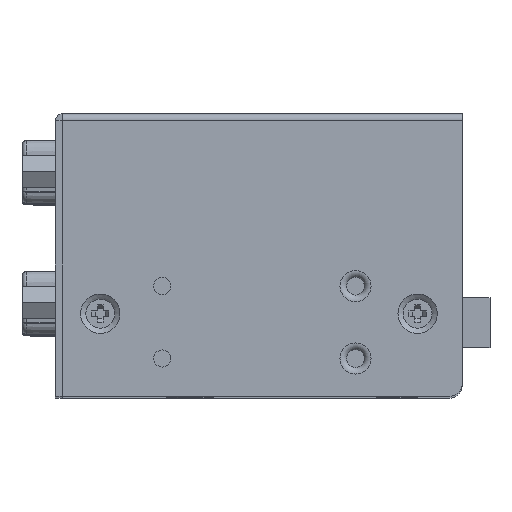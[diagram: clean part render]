
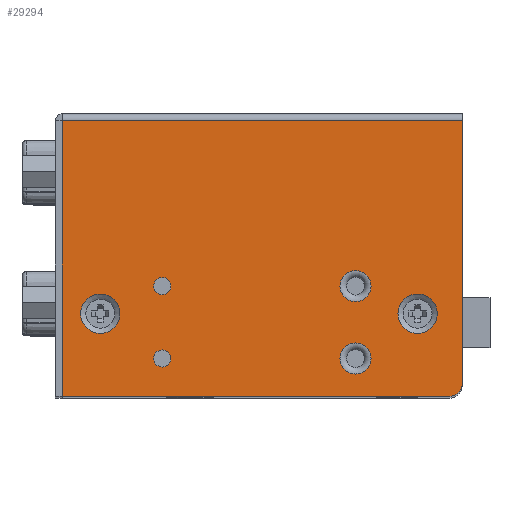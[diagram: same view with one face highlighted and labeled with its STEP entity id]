
A CAD part, top view. The second image highlights one B-rep face of the part: STEP entity #29294.
In plain terms, the highlighted planar face has unit normal (0, 0, 1).
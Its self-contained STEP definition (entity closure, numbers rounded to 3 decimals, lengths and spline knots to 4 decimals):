
#808=FACE_BOUND('',#6018,.T.);
#809=FACE_BOUND('',#6019,.T.);
#810=FACE_BOUND('',#6020,.T.);
#811=FACE_BOUND('',#6021,.T.);
#812=FACE_BOUND('',#6022,.T.);
#813=FACE_BOUND('',#6023,.T.);
#2252=CIRCLE('',#31819,0.0886);
#2254=CIRCLE('',#31822,0.0886);
#2260=CIRCLE('',#31831,0.0492);
#2261=CIRCLE('',#31833,0.1122);
#2262=CIRCLE('',#31835,0.1122);
#2263=CIRCLE('',#31837,0.0492);
#2405=CIRCLE('',#32131,0.0787);
#3998=FACE_OUTER_BOUND('',#6017,.T.);
#6017=EDGE_LOOP('',(#24495,#24496,#24497,#24498,#24499));
#6018=EDGE_LOOP('',(#24500));
#6019=EDGE_LOOP('',(#24501));
#6020=EDGE_LOOP('',(#24502));
#6021=EDGE_LOOP('',(#24503));
#6022=EDGE_LOOP('',(#24504));
#6023=EDGE_LOOP('',(#24505));
#8476=LINE('',#50761,#10975);
#8494=LINE('',#50799,#10993);
#8497=LINE('',#50804,#10996);
#8501=LINE('',#50816,#11000);
#10975=VECTOR('',#39301,39.3701);
#10993=VECTOR('',#39349,39.3701);
#10996=VECTOR('',#39354,39.3701);
#11000=VECTOR('',#39374,39.3701);
#13456=VERTEX_POINT('',#49882);
#13457=VERTEX_POINT('',#49886);
#13460=VERTEX_POINT('',#49898);
#13461=VERTEX_POINT('',#49902);
#13462=VERTEX_POINT('',#49906);
#13463=VERTEX_POINT('',#49910);
#13570=VERTEX_POINT('',#50183);
#13571=VERTEX_POINT('',#50185);
#13748=VERTEX_POINT('',#50758);
#13749=VERTEX_POINT('',#50760);
#13755=VERTEX_POINT('',#50802);
#17052=EDGE_CURVE('',#13456,#13456,#2252,.T.);
#17054=EDGE_CURVE('',#13457,#13457,#2254,.T.);
#17060=EDGE_CURVE('',#13460,#13460,#2260,.T.);
#17063=EDGE_CURVE('',#13461,#13461,#2261,.T.);
#17065=EDGE_CURVE('',#13462,#13462,#2262,.T.);
#17066=EDGE_CURVE('',#13463,#13463,#2263,.T.);
#17491=EDGE_CURVE('',#13749,#13748,#8476,.T.);
#17513=EDGE_CURVE('',#13570,#13571,#8494,.T.);
#17516=EDGE_CURVE('',#13571,#13755,#8497,.T.);
#17517=EDGE_CURVE('',#13755,#13749,#2405,.T.);
#17523=EDGE_CURVE('',#13748,#13570,#8501,.T.);
#24495=ORIENTED_EDGE('',*,*,#17523,.T.);
#24496=ORIENTED_EDGE('',*,*,#17513,.T.);
#24497=ORIENTED_EDGE('',*,*,#17516,.T.);
#24498=ORIENTED_EDGE('',*,*,#17517,.T.);
#24499=ORIENTED_EDGE('',*,*,#17491,.T.);
#24500=ORIENTED_EDGE('',*,*,#17054,.F.);
#24501=ORIENTED_EDGE('',*,*,#17052,.F.);
#24502=ORIENTED_EDGE('',*,*,#17065,.F.);
#24503=ORIENTED_EDGE('',*,*,#17063,.F.);
#24504=ORIENTED_EDGE('',*,*,#17060,.F.);
#24505=ORIENTED_EDGE('',*,*,#17066,.F.);
#27853=PLANE('',#32139);
#29294=ADVANCED_FACE('',(#3998,#808,#809,#810,#811,#812,#813),#27853,.F.);
#31819=AXIS2_PLACEMENT_3D('',#49883,#38421,#38422);
#31822=AXIS2_PLACEMENT_3D('',#49887,#38427,#38428);
#31831=AXIS2_PLACEMENT_3D('',#49899,#38445,#38446);
#31833=AXIS2_PLACEMENT_3D('',#49904,#38451,#38452);
#31835=AXIS2_PLACEMENT_3D('',#49908,#38456,#38457);
#31837=AXIS2_PLACEMENT_3D('',#49911,#38460,#38461);
#32131=AXIS2_PLACEMENT_3D('',#50806,#39357,#39358);
#32139=AXIS2_PLACEMENT_3D('',#50818,#39377,#39378);
#38421=DIRECTION('center_axis',(0.,0.,
1.));
#38422=DIRECTION('ref_axis',(-1.,0.,0.));
#38427=DIRECTION('center_axis',(0.,0.,
1.));
#38428=DIRECTION('ref_axis',(1.,0.,0.));
#38445=DIRECTION('center_axis',(0.,0.,1.));
#38446=DIRECTION('ref_axis',(-1.,0.,0.));
#38451=DIRECTION('center_axis',(0.,0.,1.));
#38452=DIRECTION('ref_axis',(1.,0.,0.));
#38456=DIRECTION('center_axis',(0.,0.,1.));
#38457=DIRECTION('ref_axis',(1.,0.,0.));
#38460=DIRECTION('center_axis',(0.,0.,1.));
#38461=DIRECTION('ref_axis',(-1.,0.,0.));
#39301=DIRECTION('',(0.,1.,0.));
#39349=DIRECTION('',(0.,-1.,0.));
#39354=DIRECTION('',(1.,0.,0.));
#39357=DIRECTION('center_axis',(0.,0.,1.));
#39358=DIRECTION('ref_axis',(1.,0.,0.));
#39374=DIRECTION('',(-1.,0.,0.));
#39377=DIRECTION('center_axis',(0.,0.,-1.));
#39378=DIRECTION('ref_axis',(0.,-1.,0.));
#49882=CARTESIAN_POINT('',(0.4626,0.4528,3.1102));
#49883=CARTESIAN_POINT('Origin',(0.5512,0.4528,3.1102));
#49886=CARTESIAN_POINT('',(0.4626,0.0394,3.1102));
#49887=CARTESIAN_POINT('Origin',(0.5512,0.0394,3.1102));
#49898=CARTESIAN_POINT('',(-0.502,0.4528,3.1102));
#49899=CARTESIAN_POINT('Origin',(-0.5512,0.4528,3.1102));
#49902=CARTESIAN_POINT('',(-1.0177,0.2953,3.1102));
#49904=CARTESIAN_POINT('Origin',(-0.9055,0.2953,3.1102));
#49906=CARTESIAN_POINT('',(0.7933,0.2953,3.1102));
#49908=CARTESIAN_POINT('Origin',(0.9055,0.2953,3.1102));
#49910=CARTESIAN_POINT('',(-0.502,0.0394,3.1102));
#49911=CARTESIAN_POINT('Origin',(-0.5512,0.0394,
3.1102));
#50183=CARTESIAN_POINT('',(-1.122,1.3976,3.1102));
#50185=CARTESIAN_POINT('',(-1.122,-0.1772,3.1102));
#50758=CARTESIAN_POINT('',(1.1614,1.3976,3.1102));
#50760=CARTESIAN_POINT('',(1.1614,-0.0984,3.1102));
#50761=CARTESIAN_POINT('',(1.1614,0.6496,3.1102));
#50799=CARTESIAN_POINT('',(-1.122,0.6102,3.1102));
#50802=CARTESIAN_POINT('',(1.0827,-0.1772,3.1102));
#50804=CARTESIAN_POINT('',(-0.0197,-0.1772,3.1102));
#50806=CARTESIAN_POINT('Origin',(1.0827,-0.0984,3.1102));
#50816=CARTESIAN_POINT('',(0.0197,1.3976,3.1102));
#50818=CARTESIAN_POINT('Origin',(1.2071,1.4291,3.1102));
